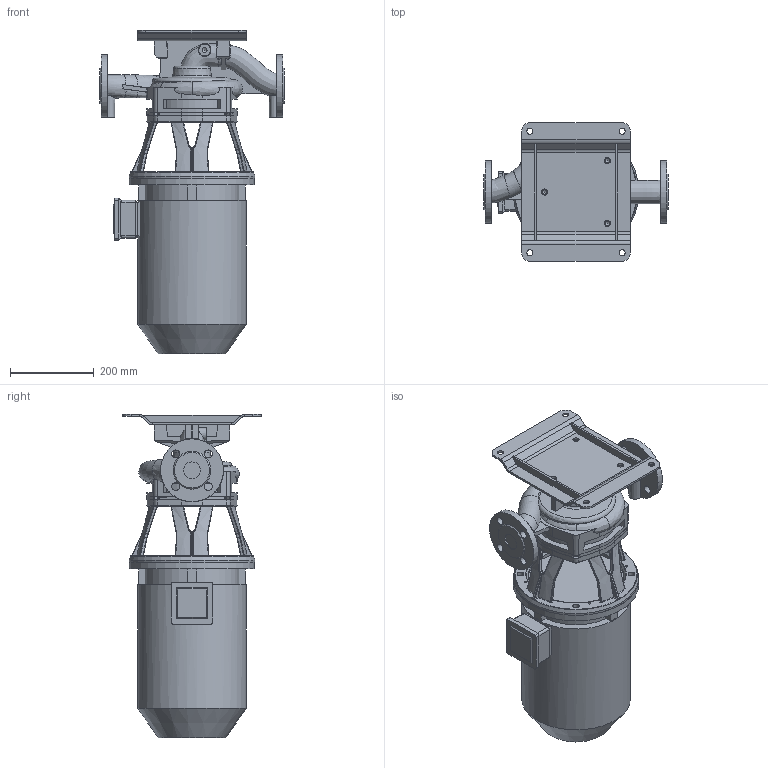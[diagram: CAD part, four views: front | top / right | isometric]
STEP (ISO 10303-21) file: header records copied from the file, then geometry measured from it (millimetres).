
FILE_DESCRIPTION (( 'STEP AP203' ), '1' );
FILE_NAME ('KI40-180_2_5,5kW.STEP', '2024-03-06T11:44:55', ( '' ), ( '' ), 'SwSTEP 2.0', 'SolidWorks 2023', '' );
FILE_SCHEMA (( 'CONFIG_CONTROL_DESIGN' ));
Length unit declared in the file: millimetre
Products named in the file (10): 220496; 230033; KI40-180_2_5,5kW; 220497; 480013_solid; 230034; 230411; 220440; 230031; 220441
Assembly tree (10 placements, depth 3):
  KI40-180_2_5,5kW
    220441
      220440
    220497
      220496
    230034
      230031
      230033  x2
    230411
    480013_solid
Bounding box: 440 x 330.18 x 771.85 mm (x, y, z)
Volume: 28900223.7 mm3; surface area: 1392934.5 mm2
Topology: 7 solids, 7 shells, 911 faces, 2320 edges, 1415 vertices
Faces by surface type: plane 292, cylinder 251, bspline 210, cone 73, torus 73, sphere 12
Full cylindrical faces by diameter (mm): 5 x4, 6 x3, 6.8 x4, 7 x8, 10.2 x7, 11.8 x4, 14 x4, 14.5 x7, 15 x8, 19 x8, 40 x2, 150 x2, 161 x1, 169 x1, 189 x1, 230 x1, 260 x1, 300 x2
Entity records: 52830 total; most frequent: CARTESIAN_POINT 32195, ORIENTED_EDGE 4264, DIRECTION 3710, EDGE_CURVE 2132, AXIS2_PLACEMENT_3D 1463, VERTEX_POINT 1355, EDGE_LOOP 1107, FACE_OUTER_BOUND 973
